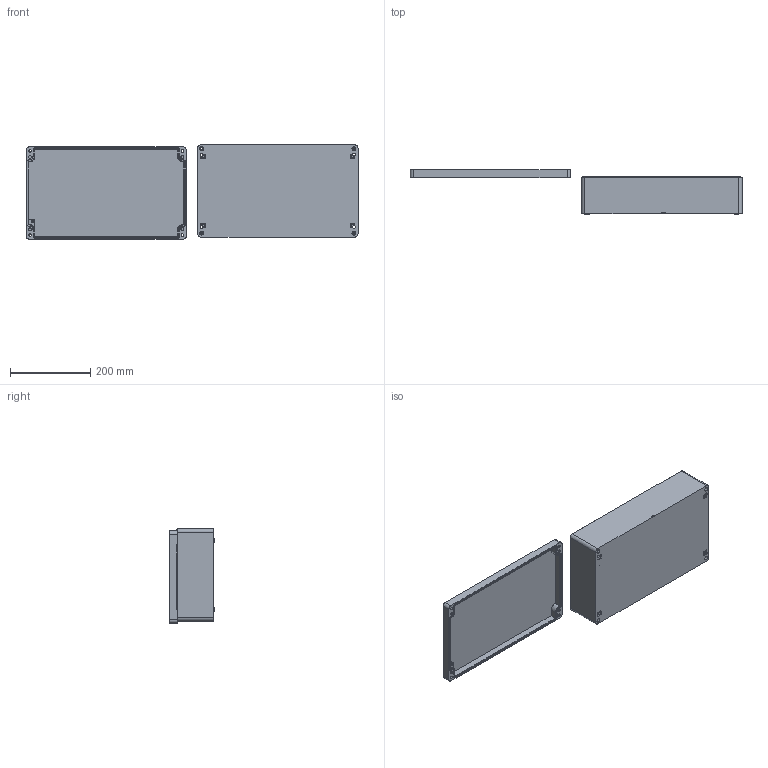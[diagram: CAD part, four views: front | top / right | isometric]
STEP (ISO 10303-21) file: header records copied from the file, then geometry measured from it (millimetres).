
FILE_DESCRIPTION (( 'STEP AP203' ), '1' );
FILE_NAME ('ZX-AL-234011_装配体.STEP', '2022-01-24T09:32:56', ( '微软用户' ), ( '微软中国' ), 'SwSTEP 2.0', 'SolidWorks 2020', '' );
FILE_SCHEMA (( 'CONFIG_CONTROL_DESIGN' ));
Length unit declared in the file: millimetre
Products named in the file (3): ZX-AL-234011_奻; ZX-AL-234011_狟; ZX-AL-234011_蚾饜极
Assembly tree (2 placements, depth 2):
  ZX-AL-234011_蚾饜极
    ZX-AL-234011_狟
    ZX-AL-234011_奻
Bounding box: 828.01 x 111 x 235.28 mm (x, y, z)
Volume: 1465655.4 mm3; surface area: 664240.1 mm2
Topology: 2 solids, 2 shells, 713 faces, 1906 edges, 1225 vertices
Faces by surface type: plane 342, cylinder 180, bspline 123, cone 68
Entity records: 27835 total; most frequent: CARTESIAN_POINT 10470, ORIENTED_EDGE 3752, DIRECTION 3146, EDGE_CURVE 1876, VECTOR 1256, LINE 1256, VERTEX_POINT 1225, AXIS2_PLACEMENT_3D 945
